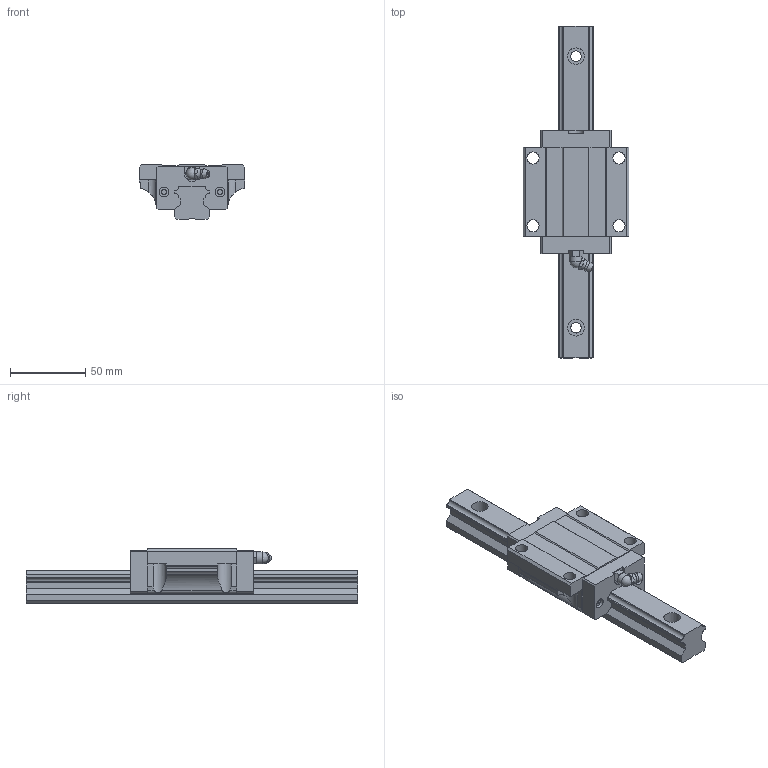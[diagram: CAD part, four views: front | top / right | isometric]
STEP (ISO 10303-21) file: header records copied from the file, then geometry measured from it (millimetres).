
FILE_DESCRIPTION(/* description */ (''),/* implementation_level */ '2;1');
FILE_NAME(/* name */ 'MSA25E',/* time_stamp */ '2005-12-26T15:51:34+08:00',/* author */ (''),/* organization */ (''),/* preprocessor_version */ 'ST-DEVELOPER v9',/* originating_system */ 'UGS - NX 3.0',/* authorisation */ '');
FILE_SCHEMA (('CONFIG_CONTROL_DESIGN'));
Length unit declared in the file: millimetre
Products named in the file (1): kevi37F33gvc
Bounding box: 70 x 220 x 36 mm (x, y, z)
Volume: 194574.7 mm3; surface area: 45215.9 mm2
Topology: 3 solids, 3 shells, 213 faces, 575 edges, 376 vertices
Faces by surface type: plane 153, cylinder 49, torus 7, sphere 2, cone 1, bspline 1
Full cylindrical faces by diameter (mm): 3.25 x4, 6.5 x4, 7 x4, 8 x5, 11 x4
Entity records: 6820 total; most frequent: CARTESIAN_POINT 1434, DIRECTION 1085, ORIENTED_EDGE 1082, EDGE_CURVE 541, VERTEX_POINT 368, LINE 363, VECTOR 363, AXIS2_PLACEMENT_3D 361
